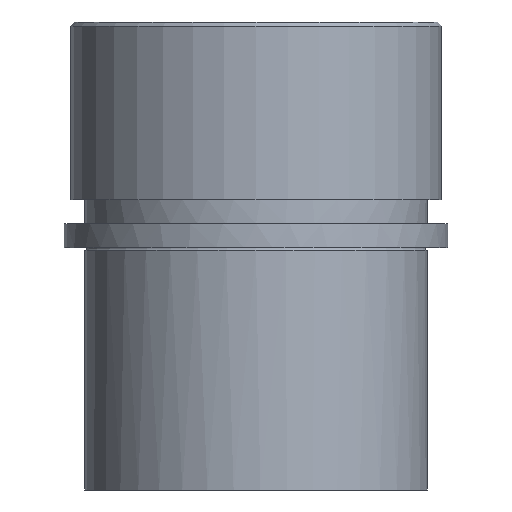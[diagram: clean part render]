
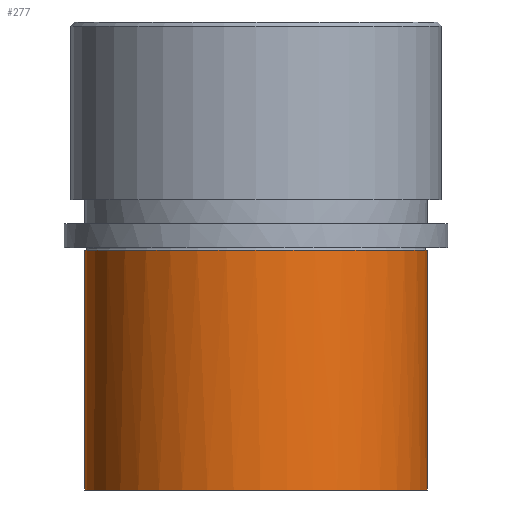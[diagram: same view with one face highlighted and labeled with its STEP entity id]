
A CAD part, front view. The second image highlights one B-rep face of the part: STEP entity #277.
In plain terms, the highlighted cylindrical face has radius 42.5 mm (diameter 85 mm), a partial arc.
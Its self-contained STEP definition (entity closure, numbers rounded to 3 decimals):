
#109=CARTESIAN_POINT('Control Point',(-42.5,0.,-60.)) ;
#110=CARTESIAN_POINT('Control Point',(-42.5,-4.152,-60.)) ;
#111=CARTESIAN_POINT('Control Point',(-41.993,-8.304,-60.)) ;
#112=CARTESIAN_POINT('Control Point',(-40.979,-12.373,-60.)) ;
#113=CARTESIAN_POINT('Control Point',(-37.978,-20.182,-60.)) ;
#114=CARTESIAN_POINT('Control Point',(-33.186,-27.038,-60.)) ;
#115=CARTESIAN_POINT('Control Point',(-30.381,-30.156,-60.)) ;
#116=CARTESIAN_POINT('Control Point',(-24.066,-35.643,-60.)) ;
#117=CARTESIAN_POINT('Control Point',(-16.617,-39.449,-60.)) ;
#118=CARTESIAN_POINT('Control Point',(-12.677,-40.886,-60.)) ;
#119=CARTESIAN_POINT('Control Point',(-4.526,-42.768,-60.)) ;
#120=CARTESIAN_POINT('Control Point',(3.838,-42.634,-60.)) ;
#121=CARTESIAN_POINT('Control Point',(7.992,-42.053,-60.)) ;
#122=CARTESIAN_POINT('Control Point',(16.073,-39.891,-60.)) ;
#123=CARTESIAN_POINT('Control Point',(23.396,-35.847,-60.)) ;
#124=CARTESIAN_POINT('Control Point',(26.791,-33.385,-60.)) ;
#125=CARTESIAN_POINT('Control Point',(32.912,-27.683,-60.)) ;
#126=CARTESIAN_POINT('Control Point',(37.481,-20.676,-60.)) ;
#127=CARTESIAN_POINT('Control Point',(39.325,-16.909,-60.)) ;
#128=CARTESIAN_POINT('Control Point',(41.279,-11.248,-60.)) ;
#129=CARTESIAN_POINT('Control Point',(42.217,-5.37,-60.)) ;
#130=CARTESIAN_POINT('Control Point',(42.406,-3.585,-60.)) ;
#131=CARTESIAN_POINT('Control Point',(42.5,-1.792,-60.)) ;
#132=CARTESIAN_POINT('Control Point',(42.5,0.,-60.)) ;
#133=CARTESIAN_POINT('Vertex',(-42.5,0.,-60.)) ;
#135=CARTESIAN_POINT('Vertex',(42.5,0.,-60.)) ;
#247=CARTESIAN_POINT('Axis2P3D Location',(0.,0.,56.)) ;
#252=CARTESIAN_POINT('Line Origine',(42.5,0.,56.)) ;
#256=CARTESIAN_POINT('Vertex',(42.5,0.,-0.6)) ;
#259=CARTESIAN_POINT('Axis2P3D Location',(0.,0.,-0.6)) ;
#263=CARTESIAN_POINT('Vertex',(-42.5,0.,-0.6)) ;
#266=CARTESIAN_POINT('Line Origine',(-42.5,0.,56.)) ;
#248=DIRECTION('Axis2P3D Direction',(0.,0.,-1.)) ;
#249=DIRECTION('Axis2P3D XDirection',(1.,0.,0.)) ;
#253=DIRECTION('Vector Direction',(0.,0.,-1.)) ;
#260=DIRECTION('Axis2P3D Direction',(0.,0.,-1.)) ;
#267=DIRECTION('Vector Direction',(0.,0.,-1.)) ;
#250=AXIS2_PLACEMENT_3D('Cylinder Axis2P3D',#247,#248,#249) ;
#261=AXIS2_PLACEMENT_3D('Circle Axis2P3D',#259,#260,$) ;
#272=ORIENTED_EDGE('',*,*,#258,.T.) ;
#273=ORIENTED_EDGE('',*,*,#265,.F.) ;
#274=ORIENTED_EDGE('',*,*,#270,.T.) ;
#275=ORIENTED_EDGE('',*,*,#137,.T.) ;
#254=VECTOR('Line Direction',#253,1.) ;
#268=VECTOR('Line Direction',#267,1.) ;
#277=ADVANCED_FACE('735-60',(#276),#251,.T.) ;
#108=B_SPLINE_CURVE_WITH_KNOTS('',5,(#109,#110,#111,#112,#113,#114,#115,#116,#117,#118,#119,#120,#121,#122,#123,#124,#125,#126,#127,#128,#129,#130,#131,#132),.UNSPECIFIED.,.F.,.U.,(6,3,3,3,3,3,3,6),(0.,29.358,58.716,88.073,117.431,146.789,176.147,188.821),.UNSPECIFIED.) ;
#262=CIRCLE('generated circle',#261,42.5) ;
#251=CYLINDRICAL_SURFACE('generated cylinder',#250,42.5) ;
#137=EDGE_CURVE('',#134,#136,#108,.T.) ;
#258=EDGE_CURVE('',#136,#257,#255,.F.) ;
#265=EDGE_CURVE('',#264,#257,#262,.F.) ;
#270=EDGE_CURVE('',#264,#134,#269,.T.) ;
#271=EDGE_LOOP('',(#272,#273,#274,#275)) ;
#276=FACE_OUTER_BOUND('',#271,.T.) ;
#255=LINE('Line',#252,#254) ;
#269=LINE('Line',#266,#268) ;
#134=VERTEX_POINT('',#133) ;
#136=VERTEX_POINT('',#135) ;
#257=VERTEX_POINT('',#256) ;
#264=VERTEX_POINT('',#263) ;
